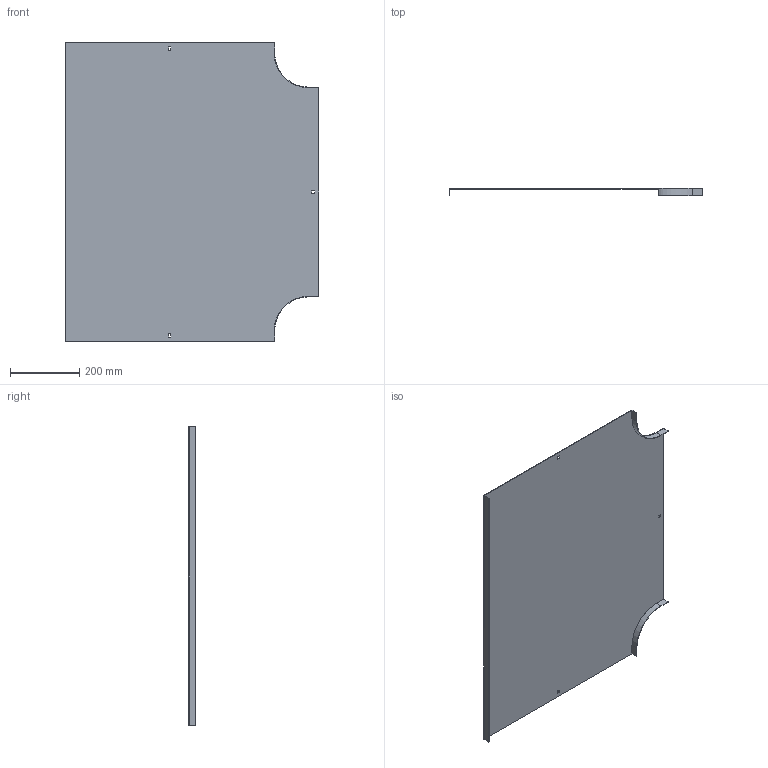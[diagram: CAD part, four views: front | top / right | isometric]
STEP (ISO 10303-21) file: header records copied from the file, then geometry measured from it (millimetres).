
FILE_DESCRIPTION (( 'STEP AP214' ), '1' );
FILE_NAME ('15G1R600.step', '2025-02-21T13:02:57', ( '' ), ( '' ), 'SwSTEP 2.0', 'SolidWorks 2023', '' );
FILE_SCHEMA (( 'AUTOMOTIVE_DESIGN' ));
Length unit declared in the file: millimetre
Products named in the file (1): 15G1R600
Bounding box: 735.5 x 20 x 864 mm (x, y, z)
Volume: 945612.9 mm3; surface area: 1265794.9 mm2
Topology: 1 solids, 1 shells, 34 faces, 96 edges, 64 vertices
Faces by surface type: plane 30, cylinder 4
Entity records: 1123 total; most frequent: CARTESIAN_POINT 195, ORIENTED_EDGE 192, DIRECTION 174, EDGE_CURVE 96, LINE 88, VECTOR 88, VERTEX_POINT 64, AXIS2_PLACEMENT_3D 43
